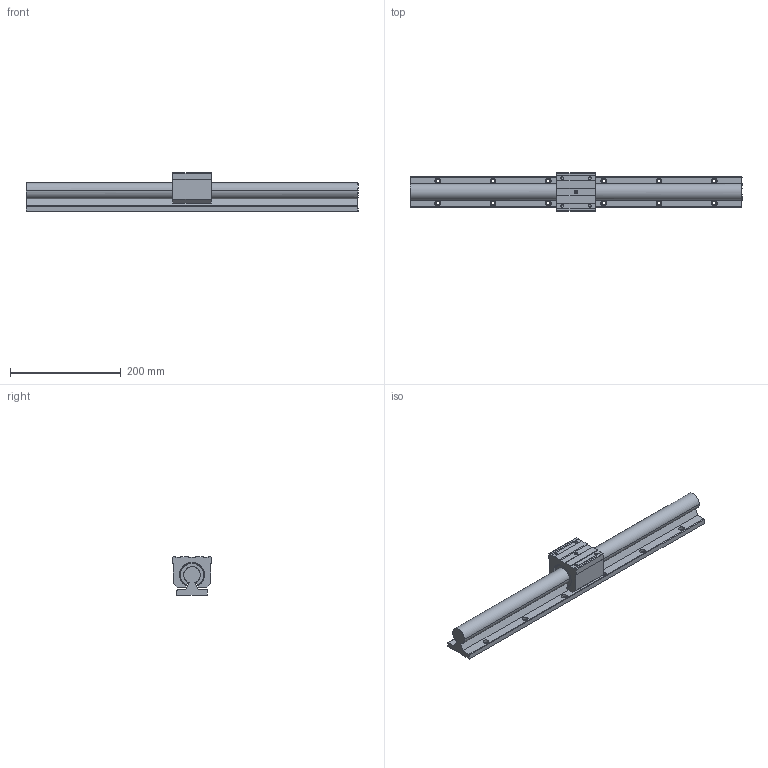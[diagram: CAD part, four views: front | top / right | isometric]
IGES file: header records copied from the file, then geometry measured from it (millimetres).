
Global section: file name: No Iges File Name specified; native system: AutoDesk Inventor R11.0; preprocessor: AutoDesk Inventor Iges Exporter R11.0; author: No Author specified; organization: No Organization specified; date: 20150528.092418; units: millimetre
Bounding box: 600 x 70 x 70 mm (x, y, z)
Surface area: 167677.2 mm2 (no closed solid volume)
Topology: 0 solids, 0 shells, 162 faces, 1214 edges, 1204 vertices
Faces by surface type: bspline 162
